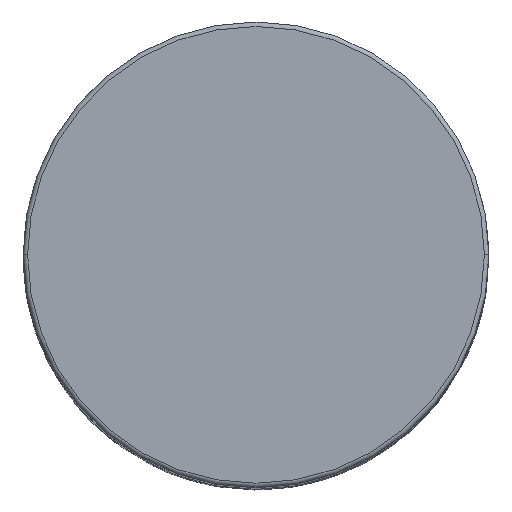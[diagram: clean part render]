
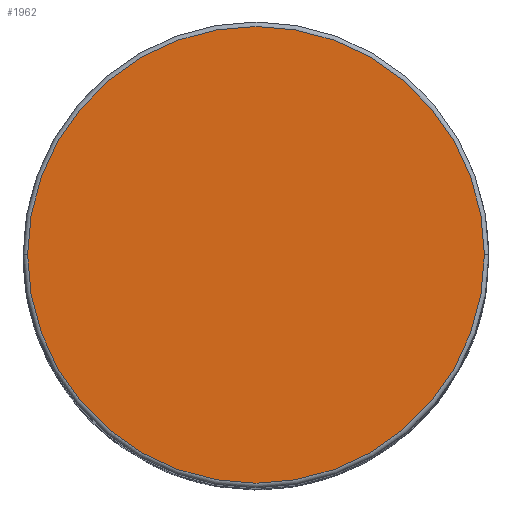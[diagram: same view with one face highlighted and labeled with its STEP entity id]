
A CAD part, top view. The second image highlights one B-rep face of the part: STEP entity #1962.
In plain terms, the highlighted planar face has unit normal (0, 0, 1).
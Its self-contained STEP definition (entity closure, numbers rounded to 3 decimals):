
#18 = CARTESIAN_POINT ( 'NONE',  ( 0., 0., 91. ) ) ;
#43 = DIRECTION ( 'NONE',  ( 1., 0., 0. ) ) ;
#137 = ORIENTED_EDGE ( 'NONE', *, *, #2617, .T. ) ;
#161 = EDGE_LOOP ( 'NONE', ( #3126, #137 ) ) ;
#667 = CARTESIAN_POINT ( 'NONE',  ( 0., 0., 91. ) ) ;
#1464 = PLANE ( 'NONE',  #4817 ) ;
#1511 = DIRECTION ( 'NONE',  ( 1., 0., 0. ) ) ;
#1962 = ADVANCED_FACE ( 'NONE', ( #3466 ), #1464, .T. ) ;
#2127 = DIRECTION ( 'NONE',  ( 0., 0., 1. ) ) ;
#2525 = CARTESIAN_POINT ( 'NONE',  ( 0., 0., 91. ) ) ;
#2617 = EDGE_CURVE ( 'NONE', #3745, #5004, #3402, .T. ) ;
#2861 = AXIS2_PLACEMENT_3D ( 'NONE', #2525, #2127, #43 ) ;
#2881 = EDGE_CURVE ( 'NONE', #5004, #3745, #4455, .T. ) ;
#3126 = ORIENTED_EDGE ( 'NONE', *, *, #2881, .T. ) ;
#3233 = AXIS2_PLACEMENT_3D ( 'NONE', #18, #3496, #1511 ) ;
#3402 = CIRCLE ( 'NONE', #3233, 25.5 ) ;
#3466 = FACE_OUTER_BOUND ( 'NONE', #161, .T. ) ;
#3496 = DIRECTION ( 'NONE',  ( 0., 0., 1. ) ) ;
#3745 = VERTEX_POINT ( 'NONE', #4794 ) ;
#4435 = CARTESIAN_POINT ( 'NONE',  ( 25.5, 0., 91. ) ) ;
#4455 = CIRCLE ( 'NONE', #2861, 25.5 ) ;
#4686 = DIRECTION ( 'NONE',  ( 1., 0., 0. ) ) ;
#4794 = CARTESIAN_POINT ( 'NONE',  ( -25.5, 0., 91. ) ) ;
#4817 = AXIS2_PLACEMENT_3D ( 'NONE', #667, #5074, #4686 ) ;
#5004 = VERTEX_POINT ( 'NONE', #4435 ) ;
#5074 = DIRECTION ( 'NONE',  ( 0., 0., 1. ) ) ;
